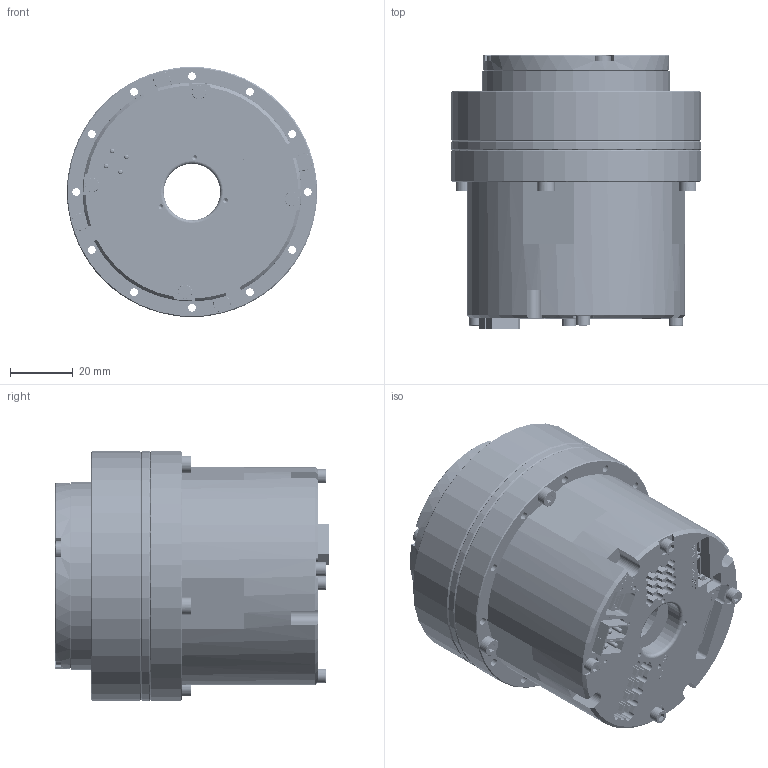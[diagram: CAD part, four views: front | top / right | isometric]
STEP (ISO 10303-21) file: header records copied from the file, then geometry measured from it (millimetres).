
FILE_DESCRIPTION (( 'STEP AP203' ), '1' );
FILE_NAME ('eRob80H｡ﾁ｡ﾁI_V5.STEP', '2022-11-08T06:23:11', ( 'Windows User' ), ( 'P R C' ), 'SwSTEP 2.0', 'SolidWorks 2021', '' );
FILE_SCHEMA (( 'CONFIG_CONTROL_DESIGN' ));
Length unit declared in the file: millimetre
Products named in the file (1): eRob80H℅℅I_V5
Bounding box: 80 x 87.6 x 80 mm (x, y, z)
Volume: 308345.5 mm3; surface area: 53254.2 mm2
Topology: 18 solids, 35 shells, 2880 faces, 7627 edges, 4939 vertices
Faces by surface type: plane 1577, cylinder 877, bspline 232, cone 142, torus 52
Entity records: 123707 total; most frequent: CARTESIAN_POINT 56213, ORIENTED_EDGE 15106, DIRECTION 12476, EDGE_CURVE 7553, VECTOR 5104, LINE 5104, VERTEX_POINT 4939, AXIS2_PLACEMENT_3D 3686
